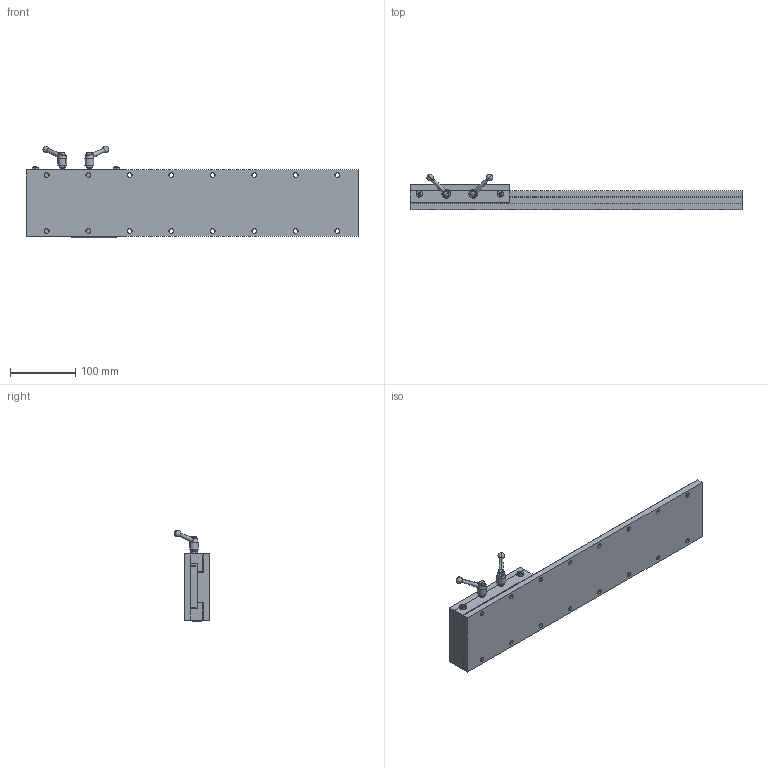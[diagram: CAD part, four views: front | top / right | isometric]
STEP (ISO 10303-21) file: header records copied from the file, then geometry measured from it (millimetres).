
FILE_DESCRIPTION (( 'STEP AP214' ), '1' );
FILE_NAME ('SW04-SL06-BL20-LH.STEP', '2011-06-16T19:28:58', ( '' ), ( '' ), 'SwSTEP 2.0', 'SolidWorks 2011', '' );
FILE_SCHEMA (( 'AUTOMOTIVE_DESIGN' ));
Length unit declared in the file: inch
Products named in the file (13): KHB_56; _MSHXNUT_MSHXNUT 0.190-32-D-N; _SSCUPSOC_SSCUPSKT 0.19-32x0.875-HX-N; Tag; Gen2 Bar_04x06 BAR; Gen2 Adj Gib_04x06 ADJ GIB; Gen2 Gib_04x06 GIB; Gen2 Top plate_04x06 TPLATE; Gen2 BASE_04x20 BASE; Gen2 Hardplate_04x20 HPLATE; Gen2 Baseplate_04x20 BASE; SW04-SL06-BL20-LH; Gen2 SADDLE_04x06 SADDLE with LOCK HANDLES
Assembly tree (15 placements, depth 3):
  SW04-SL06-BL20-LH
    Gen2 SADDLE_04x06 SADDLE with LOCK HANDLES
      _MSHXNUT_MSHXNUT 0.190-32-D-N  x2
      _SSCUPSOC_SSCUPSKT 0.19-32x0.875-HX-N  x2
      KHB_56  x2
      Gen2 Gib_04x06 GIB
      Gen2 Top plate_04x06 TPLATE
      Tag
      Gen2 Adj Gib_04x06 ADJ GIB
      Gen2 Bar_04x06 BAR
    Gen2 BASE_04x20 BASE
      Gen2 Baseplate_04x20 BASE
      Gen2 Hardplate_04x20 HPLATE
Bounding box: 508 x 53.43 x 139.75 mm (x, y, z)
Volume: 1295361.6 mm3; surface area: 315947.2 mm2
Topology: 18 solids, 18 shells, 346 faces, 786 edges, 492 vertices
Faces by surface type: plane 150, cylinder 120, cone 68, sphere 4, bspline 4
Entity records: 9423 total; most frequent: CARTESIAN_POINT 2278, DIRECTION 1378, ORIENTED_EDGE 1220, EDGE_CURVE 610, AXIS2_PLACEMENT_3D 523, VERTEX_POINT 393, EDGE_LOOP 345, LINE 332
